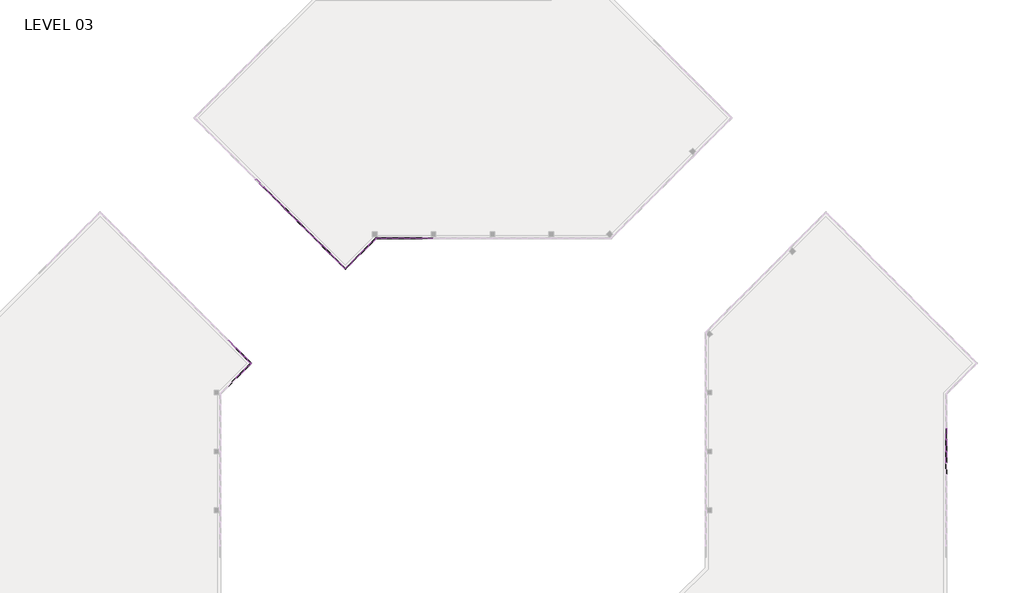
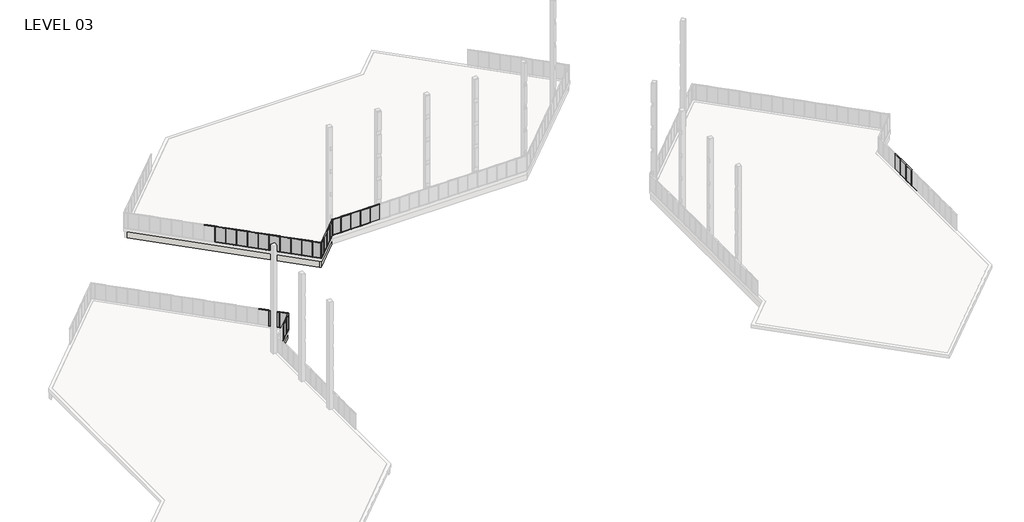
# One storey, part 12 of 18: 84 members, 26 plates, 3 walls.
"""IFC4 building model written with IfcOpenShell, lengths in millimetres."""

from ifc_helpers import new_model, si_unit, origin, place, context, project, spatial, faceted_brep, transform, mapped, element, save
from components import member_5247f267, member_e44af9ab, member_800970d4, member_45eb7f2e, member_910c08c9, member_dd9f6d43, plate_67294edd, plate_9c66726c, plate_88df3e37, plate_c3b8b83d, plate_129ab9d0, plate_6ecefdb5

model = new_model("IFC4")

# Units and contexts
model_context = context("Model", 3, world=origin())
ifc_project = project(units=[si_unit("LENGTHUNIT", "METRE", prefix="MILLI")], contexts=[model_context])

# Site, building, storey
site = spatial("IfcSite", under=ifc_project)
building = spatial("IfcBuilding", under=site)
storey = spatial("IfcBuildingStorey", under=building, Name="LEVEL 03", Elevation=8280.4)

# Members
placement = place(None, origin())
member_shape = member_5247f267(model_context)
element("IfcMember", 1, ObjectType="Rectangular Mullion : 2\" x 4.5\" rectangular", at=placement, inside=storey, context=model_context, shape_type="MappedRepresentation", body=[
    mapped(member_shape, transform((24466.55, 88955.8023049, 8280.4), x_axis=(0.0, 0.0, -1.0), y_axis=(0.0, 1.0, 0.0), z_axis=(1.0, 0.0, 0.0))),
])
element("IfcMember", 2, ObjectType="Rectangular Mullion : 2\" x 4.5\" rectangular", at=placement, inside=storey, context=model_context, shape_type="MappedRepresentation", body=[
    mapped(member_shape, transform((22942.55, 88955.8023049, 8280.4), x_axis=(0.0, 0.0, -1.0), y_axis=(0.0, 1.0, 0.0), z_axis=(1.0, 0.0, 0.0))),
])
element("IfcMember", 3, ObjectType="Rectangular Mullion : 2\" x 4.5\" rectangular", at=placement, inside=storey, context=model_context, shape_type="MappedRepresentation", body=[
    mapped(member_shape, transform((21418.55, 88955.8023049, 8280.4), x_axis=(0.0, 0.0, -1.0), y_axis=(0.0, 1.0, 0.0), z_axis=(1.0, 0.0, 0.0))),
])
element("IfcMember", 4, ObjectType="Rectangular Mullion : 2\" x 4.5\" rectangular", at=placement, inside=storey, context=model_context, shape_type="MappedRepresentation", body=[
    mapped(member_shape, transform((6200.5095063, 93365.536663, 8280.4), x_axis=(0.0, 0.0, -1.0), y_axis=(-0.7071067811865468, -0.7071067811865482, 0.0), z_axis=(-0.7071067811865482, 0.7071067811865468, 0.0))),
])
element("IfcMember", 5, ObjectType="Rectangular Mullion : 2\" x 4.5\" rectangular", at=placement, inside=storey, context=model_context, shape_type="MappedRepresentation", body=[
    mapped(member_shape, transform((7278.1402408, 92287.9059285, 8280.4), x_axis=(0.0, 0.0, -1.0), y_axis=(-0.7071067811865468, -0.7071067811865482, 0.0), z_axis=(-0.7071067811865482, 0.7071067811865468, 0.0))),
])
element("IfcMember", 6, ObjectType="Rectangular Mullion : 2\" x 4.5\" rectangular", at=placement, inside=storey, context=model_context, shape_type="MappedRepresentation", body=[
    mapped(member_shape, transform((8355.7709754, 91210.2751939, 8280.4), x_axis=(0.0, 0.0, -1.0), y_axis=(-0.7071067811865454, -0.7071067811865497, 0.0), z_axis=(-0.7071067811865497, 0.7071067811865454, 0.0))),
])
element("IfcMember", 7, ObjectType="Rectangular Mullion : 2\" x 4.5\" rectangular", at=placement, inside=storey, context=model_context, shape_type="MappedRepresentation", body=[
    mapped(member_shape, transform((15463.8924855, 85858.0386548, 8280.4), x_axis=(0.0, 0.0, -1.0), y_axis=(0.7071067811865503, -0.7071067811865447, 0.0), z_axis=(-0.7071067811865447, -0.7071067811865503, 0.0))),
])
element("IfcMember", 8, ObjectType="Rectangular Mullion : 2\" x 4.5\" rectangular", at=placement, inside=storey, context=model_context, shape_type="MappedRepresentation", body=[
    mapped(member_shape, transform((9433.4017099, 90132.6444594, 8280.4), x_axis=(0.0, 0.0, -1.0), y_axis=(-0.7071067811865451, -0.7071067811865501, 0.0), z_axis=(-0.7071067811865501, 0.7071067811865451, 0.0))),
])
element("IfcMember", 9, ObjectType="Rectangular Mullion : 2\" x 4.5\" rectangular", at=placement, inside=storey, context=model_context, shape_type="MappedRepresentation", body=[
    mapped(member_shape, transform((10511.0324444, 89055.0137249, 8280.4), x_axis=(0.0, 0.0, -1.0), y_axis=(-0.7071067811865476, -0.7071067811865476, 0.0), z_axis=(-0.7071067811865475, 0.7071067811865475, 0.0))),
])
element("IfcMember", 10, ObjectType="Rectangular Mullion : 2\" x 4.5\" rectangular", at=placement, inside=storey, context=model_context, shape_type="MappedRepresentation", body=[
    mapped(member_shape, transform((11588.663179, 87977.3829903, 8280.4), x_axis=(0.0, 0.0, -1.0), y_axis=(-0.7071067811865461, -0.707106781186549, 0.0), z_axis=(-0.707106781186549, 0.7071067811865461, 0.0))),
])
element("IfcMember", 11, ObjectType="Rectangular Mullion : 2\" x 4.5\" rectangular", at=placement, inside=storey, context=model_context, shape_type="MappedRepresentation", body=[
    mapped(member_shape, transform((12666.2939135, 86899.7522558, 8280.4), x_axis=(0.0, 0.0, -1.0), y_axis=(-0.7071067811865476, -0.7071067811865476, 0.0), z_axis=(-0.7071067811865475, 0.7071067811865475, 0.0))),
])
element("IfcMember", 12, ObjectType="Rectangular Mullion : 2\" x 4.5\" rectangular", at=placement, inside=storey, context=model_context, shape_type="MappedRepresentation", body=[
    mapped(member_shape, transform((16541.5232201, 86935.6693894, 8280.4), x_axis=(0.0, 0.0, -1.0), y_axis=(0.7071067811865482, -0.7071067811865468, 0.0), z_axis=(-0.7071067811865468, -0.7071067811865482, 0.0))),
])
element("IfcMember", 13, ObjectType="Rectangular Mullion : 2\" x 4.5\" rectangular", at=placement, inside=storey, context=model_context, shape_type="MappedRepresentation", body=[
    mapped(member_shape, transform((24517.35, 88955.8023049, 10871.2), x_axis=(0.0, 0.0, 1.0), y_axis=(0.0, 1.0, 0.0), z_axis=(-1.0, 0.0, 0.0))),
])
element("IfcMember", 14, ObjectType="Rectangular Mullion : 2\" x 4.5\" rectangular", at=placement, inside=storey, context=model_context, shape_type="MappedRepresentation", body=[
    mapped(member_shape, transform((22993.35, 88955.8023049, 10871.2), x_axis=(0.0, 0.0, 1.0), y_axis=(0.0, 1.0, 0.0), z_axis=(-1.0, 0.0, 0.0))),
])
element("IfcMember", 15, ObjectType="Rectangular Mullion : 2\" x 4.5\" rectangular", at=placement, inside=storey, context=model_context, shape_type="MappedRepresentation", body=[
    mapped(member_shape, transform((21469.35, 88955.8023049, 10871.2), x_axis=(0.0, 0.0, 1.0), y_axis=(0.0, 1.0, 0.0), z_axis=(-1.0, 0.0, 0.0))),
])
element("IfcMember", 16, ObjectType="Rectangular Mullion : 2\" x 4.5\" rectangular", at=placement, inside=storey, context=model_context, shape_type="MappedRepresentation", body=[
    mapped(member_shape, transform((19945.35, 88955.8023049, 10871.2), x_axis=(0.0, 0.0, 1.0), y_axis=(0.0, 1.0, 0.0), z_axis=(-1.0, 0.0, 0.0))),
])
element("IfcMember", 17, ObjectType="Rectangular Mullion : 2\" x 4.5\" rectangular", at=placement, inside=storey, context=model_context, shape_type="MappedRepresentation", body=[
    mapped(member_shape, transform((4009.6843581, 95556.3618112, 10871.2), x_axis=(0.0, 0.0, 1.0), y_axis=(-0.7071067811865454, -0.7071067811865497, 0.0), z_axis=(0.7071067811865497, -0.7071067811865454, 0.0))),
])
element("IfcMember", 18, ObjectType="Rectangular Mullion : 2\" x 4.5\" rectangular", at=placement, inside=storey, context=model_context, shape_type="MappedRepresentation", body=[
    mapped(member_shape, transform((7242.2192164, 92323.8269529, 10871.2), x_axis=(0.0, 0.0, 1.0), y_axis=(-0.7071067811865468, -0.7071067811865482, 0.0), z_axis=(0.7071067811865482, -0.7071067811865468, 0.0))),
])
element("IfcMember", 19, ObjectType="Rectangular Mullion : 2\" x 4.5\" rectangular", at=placement, inside=storey, context=model_context, shape_type="MappedRepresentation", body=[
    mapped(member_shape, transform((8319.8499509, 91246.1962184, 10871.2), x_axis=(0.0, 0.0, 1.0), y_axis=(-0.7071067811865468, -0.7071067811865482, 0.0), z_axis=(0.7071067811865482, -0.7071067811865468, 0.0))),
])
element("IfcMember", 20, ObjectType="Rectangular Mullion : 2\" x 4.5\" rectangular", at=placement, inside=storey, context=model_context, shape_type="MappedRepresentation", body=[
    mapped(member_shape, transform((17583.2329301, 87977.3790994, 10871.2), x_axis=(0.0, 0.0, 1.0), y_axis=(0.7071067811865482, -0.7071067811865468, 0.0), z_axis=(0.7071067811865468, 0.7071067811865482, 0.0))),
])
element("IfcMember", 21, ObjectType="Rectangular Mullion : 2\" x 4.5\" rectangular", at=placement, inside=storey, context=model_context, shape_type="MappedRepresentation", body=[
    mapped(member_shape, transform((9397.4806854, 90168.5654839, 10871.2), x_axis=(0.0, 0.0, 1.0), y_axis=(-0.7071067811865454, -0.7071067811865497, 0.0), z_axis=(0.7071067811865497, -0.7071067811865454, 0.0))),
])
element("IfcMember", 22, ObjectType="Rectangular Mullion : 2\" x 4.5\" rectangular", at=placement, inside=storey, context=model_context, shape_type="MappedRepresentation", body=[
    mapped(member_shape, transform((10475.1114199, 89090.9347494, 10871.2), x_axis=(0.0, 0.0, 1.0), y_axis=(-0.7071067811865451, -0.7071067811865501, 0.0), z_axis=(0.7071067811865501, -0.7071067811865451, 0.0))),
])
element("IfcMember", 23, ObjectType="Rectangular Mullion : 2\" x 4.5\" rectangular", at=placement, inside=storey, context=model_context, shape_type="MappedRepresentation", body=[
    mapped(member_shape, transform((11552.7421545, 88013.3040148, 10871.2), x_axis=(0.0, 0.0, 1.0), y_axis=(-0.7071067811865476, -0.7071067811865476, 0.0), z_axis=(0.7071067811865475, -0.7071067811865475, 0.0))),
])
element("IfcMember", 24, ObjectType="Rectangular Mullion : 2\" x 4.5\" rectangular", at=placement, inside=storey, context=model_context, shape_type="MappedRepresentation", body=[
    mapped(member_shape, transform((12630.372889, 86935.6732803, 10871.2), x_axis=(0.0, 0.0, 1.0), y_axis=(-0.7071067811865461, -0.707106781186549, 0.0), z_axis=(0.707106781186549, -0.7071067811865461, 0.0))),
])
element("IfcMember", 25, ObjectType="Rectangular Mullion : 2\" x 4.5\" rectangular", at=placement, inside=storey, context=model_context, shape_type="MappedRepresentation", body=[
    mapped(member_shape, transform((13708.0036235, 85858.0425458, 10871.2), x_axis=(0.0, 0.0, 1.0), y_axis=(-0.7071067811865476, -0.7071067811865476, 0.0), z_axis=(0.7071067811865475, -0.7071067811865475, 0.0))),
])
element("IfcMember", 26, ObjectType="Rectangular Mullion : 2\" x 4.5\" rectangular", at=placement, inside=storey, context=model_context, shape_type="MappedRepresentation", body=[
    mapped(member_shape, transform((16505.6021956, 86899.7483649, 10871.2), x_axis=(0.0, 0.0, 1.0), y_axis=(0.7071067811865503, -0.7071067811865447, 0.0), z_axis=(0.7071067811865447, 0.7071067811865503, 0.0))),
])
member_2_shape = member_e44af9ab(model_context)
element("IfcMember", 27, ObjectType="Rectangular Mullion : 2\" x 4.5\" rectangular", at=placement, inside=storey, context=model_context, shape_type="MappedRepresentation", body=[
    mapped(member_2_shape, transform((24491.95, 88955.8023049, 8280.4), x_axis=(-1.0, 0.0, 0.0), y_axis=(0.0, 1.0, 0.0), z_axis=(0.0, 0.0, -1.0))),
])
element("IfcMember", 28, ObjectType="Rectangular Mullion : 2\" x 4.5\" rectangular", at=placement, inside=storey, context=model_context, shape_type="MappedRepresentation", body=[
    mapped(member_2_shape, transform((22967.95, 88955.8023049, 8280.4), x_axis=(-1.0, 0.0, 0.0), y_axis=(0.0, 1.0, 0.0), z_axis=(0.0, 0.0, -1.0))),
])
element("IfcMember", 29, ObjectType="Rectangular Mullion : 2\" x 4.5\" rectangular", at=placement, inside=storey, context=model_context, shape_type="MappedRepresentation", body=[
    mapped(member_2_shape, transform((21443.95, 88955.8023049, 8280.4), x_axis=(-1.0, 0.0, 0.0), y_axis=(0.0, 1.0, 0.0), z_axis=(0.0, 0.0, -1.0))),
])
element("IfcMember", 30, ObjectType="Rectangular Mullion : 2\" x 4.5\" rectangular", at=placement, inside=storey, context=model_context, shape_type="MappedRepresentation", body=[
    mapped(member_2_shape, transform((19919.95, 88955.8023049, 8280.4), x_axis=(-1.0, 0.0, 0.0), y_axis=(0.0, 1.0, 0.0), z_axis=(0.0, 0.0, -1.0))),
])
element("IfcMember", 31, ObjectType="Rectangular Mullion : 2\" x 4.5\" rectangular", at=placement, inside=storey, context=model_context, shape_type="MappedRepresentation", body=[
    mapped(member_2_shape, transform((4027.6448703, 95538.401299, 8280.4), x_axis=(0.7071067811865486, -0.7071067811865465, 0.0), y_axis=(-0.7071067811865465, -0.7071067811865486, 0.0), z_axis=(0.0, 0.0, -1.0))),
])
element("IfcMember", 32, ObjectType="Rectangular Mullion : 2\" x 4.5\" rectangular", at=placement, inside=storey, context=model_context, shape_type="MappedRepresentation", body=[
    mapped(member_2_shape, transform((6182.5489941, 93383.4971752, 8280.4), x_axis=(0.7071067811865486, -0.7071067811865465, 0.0), y_axis=(-0.7071067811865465, -0.7071067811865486, 0.0), z_axis=(0.0, 0.0, -1.0))),
])
element("IfcMember", 33, ObjectType="Rectangular Mullion : 2\" x 4.5\" rectangular", at=placement, inside=storey, context=model_context, shape_type="MappedRepresentation", body=[
    mapped(member_2_shape, transform((7260.1797286, 92305.8664407, 8280.4), x_axis=(0.7071067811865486, -0.7071067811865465, 0.0), y_axis=(-0.7071067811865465, -0.7071067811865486, 0.0), z_axis=(0.0, 0.0, -1.0))),
])
element("IfcMember", 34, ObjectType="Rectangular Mullion : 2\" x 4.5\" rectangular", at=placement, inside=storey, context=model_context, shape_type="MappedRepresentation", body=[
    mapped(member_2_shape, transform((8337.8104631, 91228.2357062, 8280.4), x_axis=(0.7071067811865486, -0.7071067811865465, 0.0), y_axis=(-0.7071067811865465, -0.7071067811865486, 0.0), z_axis=(0.0, 0.0, -1.0))),
])
element("IfcMember", 35, ObjectType="Rectangular Mullion : 2\" x 4.5\" rectangular", at=placement, inside=storey, context=model_context, shape_type="MappedRepresentation", body=[
    mapped(member_2_shape, transform((15445.9319733, 85840.0781426, 8280.4), x_axis=(0.7071067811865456, 0.7071067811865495, 0.0), y_axis=(0.7071067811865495, -0.7071067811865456, 0.0), z_axis=(0.0, 0.0, -1.0))),
])
element("IfcMember", 36, ObjectType="Rectangular Mullion : 2\" x 4.5\" rectangular", at=placement, inside=storey, context=model_context, shape_type="MappedRepresentation", body=[
    mapped(member_2_shape, transform((17601.1934424, 87995.3396117, 8280.4), x_axis=(0.7071067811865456, 0.7071067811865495, 0.0), y_axis=(0.7071067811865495, -0.7071067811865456, 0.0), z_axis=(0.0, 0.0, -1.0))),
])
element("IfcMember", 37, ObjectType="Rectangular Mullion : 2\" x 4.5\" rectangular", at=placement, inside=storey, context=model_context, shape_type="MappedRepresentation", body=[
    mapped(member_2_shape, transform((5105.0969322, 94460.9492371, 8280.4), x_axis=(0.7071067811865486, -0.7071067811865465, 0.0), y_axis=(-0.7071067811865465, -0.7071067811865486, 0.0), z_axis=(0.0, 0.0, -1.0))),
])
element("IfcMember", 38, ObjectType="Rectangular Mullion : 2\" x 4.5\" rectangular", at=placement, inside=storey, context=model_context, shape_type="MappedRepresentation", body=[
    mapped(member_2_shape, transform((9415.4411977, 90150.6049716, 8280.4), x_axis=(0.7071067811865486, -0.7071067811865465, 0.0), y_axis=(-0.7071067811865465, -0.7071067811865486, 0.0), z_axis=(0.0, 0.0, -1.0))),
])
element("IfcMember", 39, ObjectType="Rectangular Mullion : 2\" x 4.5\" rectangular", at=placement, inside=storey, context=model_context, shape_type="MappedRepresentation", body=[
    mapped(member_2_shape, transform((10493.0719322, 89072.9742371, 8280.4), x_axis=(0.7071067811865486, -0.7071067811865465, 0.0), y_axis=(-0.7071067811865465, -0.7071067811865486, 0.0), z_axis=(0.0, 0.0, -1.0))),
])
element("IfcMember", 40, ObjectType="Rectangular Mullion : 2\" x 4.5\" rectangular", at=placement, inside=storey, context=model_context, shape_type="MappedRepresentation", body=[
    mapped(member_2_shape, transform((11570.7026667, 87995.3435026, 8280.4), x_axis=(0.7071067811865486, -0.7071067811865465, 0.0), y_axis=(-0.7071067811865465, -0.7071067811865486, 0.0), z_axis=(0.0, 0.0, -1.0))),
])
element("IfcMember", 41, ObjectType="Rectangular Mullion : 2\" x 4.5\" rectangular", at=placement, inside=storey, context=model_context, shape_type="MappedRepresentation", body=[
    mapped(member_2_shape, transform((12648.3334012, 86917.7127681, 8280.4), x_axis=(0.7071067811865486, -0.7071067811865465, 0.0), y_axis=(-0.7071067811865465, -0.7071067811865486, 0.0), z_axis=(0.0, 0.0, -1.0))),
])
element("IfcMember", 42, ObjectType="Rectangular Mullion : 2\" x 4.5\" rectangular", at=placement, inside=storey, context=model_context, shape_type="MappedRepresentation", body=[
    mapped(member_2_shape, transform((13725.9641358, 85840.0820335, 8280.4), x_axis=(0.7071067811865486, -0.7071067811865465, 0.0), y_axis=(-0.7071067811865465, -0.7071067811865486, 0.0), z_axis=(0.0, 0.0, -1.0))),
])
element("IfcMember", 43, ObjectType="Rectangular Mullion : 2\" x 4.5\" rectangular", at=placement, inside=storey, context=model_context, shape_type="MappedRepresentation", body=[
    mapped(member_2_shape, transform((16523.5627078, 86917.7088771, 8280.4), x_axis=(0.7071067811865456, 0.7071067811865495, 0.0), y_axis=(0.7071067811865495, -0.7071067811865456, 0.0), z_axis=(0.0, 0.0, -1.0))),
])
member_3_shape = member_800970d4(model_context)
element("IfcMember", 44, ObjectType="Rectangular Mullion : 2\" x 4.5\" rectangular", at=placement, inside=storey, context=model_context, shape_type="MappedRepresentation", body=[
    mapped(member_3_shape, transform((18561.6561356, 88955.8023049, 8280.4), x_axis=(-1.0, 0.0, 0.0), y_axis=(0.0, 1.0, 0.0), z_axis=(0.0, 0.0, -1.0))),
])
element("IfcMember", 45, ObjectType="Rectangular Mullion : 2\" x 4.5\" rectangular", at=placement, inside=storey, context=model_context, shape_type="MappedRepresentation", body=[
    mapped(member_3_shape, transform((14585.95, 84980.0961693, 8280.4), x_axis=(0.7071067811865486, -0.7071067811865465, 0.0), y_axis=(-0.7071067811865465, -0.7071067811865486, 0.0), z_axis=(0.0, 0.0, -1.0))),
])
element("IfcMember", 46, ObjectType="Rectangular Mullion : 2\" x 4.5\" rectangular", at=placement, inside=storey, context=model_context, shape_type="MappedRepresentation", body=[
    mapped(member_3_shape, transform((18561.6561356, 88955.8023049, 8280.4), x_axis=(0.7071067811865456, 0.7071067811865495, 0.0), y_axis=(0.7071067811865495, -0.7071067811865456, 0.0), z_axis=(0.0, 0.0, -1.0))),
])
element("IfcMember", 47, ObjectType="Rectangular Mullion : 2\" x 4.5\" rectangular", at=placement, inside=storey, context=model_context, shape_type="MappedRepresentation", body=[
    mapped(member_3_shape, transform((14585.95, 84980.0961693, 10871.2), x_axis=(-0.7071067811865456, -0.7071067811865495, 0.0), y_axis=(0.7071067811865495, -0.7071067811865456, 0.0), z_axis=(0.0, 0.0, 1.0))),
])
member_4_shape = member_45eb7f2e(model_context)
element("IfcMember", 48, ObjectType="Rectangular Mullion : 2\" x 4.5\" rectangular", at=placement, inside=storey, context=model_context, shape_type="MappedRepresentation", body=[
    mapped(member_4_shape, transform((18612.4561356, 88955.8023049, 10871.2), x_axis=(0.0, 0.0, 1.0), y_axis=(0.0, 1.0, 0.0), z_axis=(-1.0, 0.0, 0.0))),
])
element("IfcMember", 49, ObjectType="Rectangular Mullion : 2\" x 4.5\" rectangular", at=placement, inside=storey, context=model_context, shape_type="MappedRepresentation", body=[
    mapped(member_4_shape, transform((18525.7351111, 88919.8812804, 10871.2), x_axis=(0.0, 0.0, 1.0), y_axis=(0.7071067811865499, -0.7071067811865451, 0.0), z_axis=(0.7071067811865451, 0.7071067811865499, 0.0))),
])
element("IfcMember", 50, ObjectType="Rectangular Mullion : 2\" x 4.5\" rectangular", at=placement, inside=storey, context=model_context, shape_type="MappedRepresentation", body=[
    mapped(member_4_shape, transform((19894.55, 88955.8023049, 8280.4), x_axis=(0.0, 0.0, -1.0), y_axis=(0.0, 1.0, 0.0), z_axis=(1.0, 0.0, 0.0))),
])
element("IfcMember", 51, ObjectType="Rectangular Mullion : 2\" x 4.5\" rectangular", at=placement, inside=storey, context=model_context, shape_type="MappedRepresentation", body=[
    mapped(member_4_shape, transform((17619.1539546, 88013.3001239, 8280.4), x_axis=(0.0, 0.0, -1.0), y_axis=(0.7071067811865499, -0.7071067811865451, 0.0), z_axis=(-0.7071067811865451, -0.7071067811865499, 0.0))),
])
member_5_shape = member_910c08c9(model_context)
element("IfcMember", 52, ObjectType="Rectangular Mullion : 2\" x 4.5\" rectangular", at=placement, inside=storey, context=model_context, shape_type="MappedRepresentation", body=[
    mapped(member_5_shape, transform((6164.5884818, 93401.4576875, 10871.2), x_axis=(0.0, 0.0, 1.0), y_axis=(-0.7071067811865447, -0.7071067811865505, 0.0), z_axis=(0.7071067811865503, -0.7071067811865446, 0.0))),
])
element("IfcMember", 53, ObjectType="Rectangular Mullion : 2\" x 4.5\" rectangular", at=placement, inside=storey, context=model_context, shape_type="MappedRepresentation", body=[
    mapped(member_5_shape, transform((5087.1364199, 94478.9097494, 10871.2), x_axis=(0.0, 0.0, 1.0), y_axis=(-0.7071067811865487, -0.7071067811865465, 0.0), z_axis=(0.7071067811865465, -0.7071067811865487, 0.0))),
])
element("IfcMember", 54, ObjectType="Rectangular Mullion : 2\" x 4.5\" rectangular", at=placement, inside=storey, context=model_context, shape_type="MappedRepresentation", body=[
    mapped(member_5_shape, transform((4045.6053825, 95520.4407868, 8280.4), x_axis=(0.0, 0.0, -1.0), y_axis=(-0.7071067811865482, -0.7071067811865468, 0.0), z_axis=(-0.7071067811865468, 0.7071067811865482, 0.0))),
])
element("IfcMember", 55, ObjectType="Rectangular Mullion : 2\" x 4.5\" rectangular", at=placement, inside=storey, context=model_context, shape_type="MappedRepresentation", body=[
    mapped(member_5_shape, transform((5123.0574444, 94442.9887249, 8280.4), x_axis=(0.0, 0.0, -1.0), y_axis=(-0.7071067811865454, -0.7071067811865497, 0.0), z_axis=(-0.7071067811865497, 0.7071067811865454, 0.0))),
])
member_6_shape = member_dd9f6d43(model_context)
element("IfcMember", 56, ObjectType="Rectangular Mullion : 2\" x 4.5\" rectangular", at=placement, inside=storey, context=model_context, shape_type="MappedRepresentation", body=[
    mapped(member_6_shape, transform((14550.0289755, 85016.0171938, 10871.2), x_axis=(0.0, 0.0, 1.0), y_axis=(-0.7071067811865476, -0.7071067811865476, 0.0), z_axis=(0.7071067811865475, -0.7071067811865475, 0.0))),
])
element("IfcMember", 57, ObjectType="Rectangular Mullion : 2\" x 4.5\" rectangular", at=placement, inside=storey, context=model_context, shape_type="MappedRepresentation", body=[
    mapped(member_6_shape, transform((15427.9714611, 85822.1176304, 10871.2), x_axis=(0.0, 0.0, 1.0), y_axis=(0.7071067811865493, -0.7071067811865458, 0.0), z_axis=(0.7071067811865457, 0.7071067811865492, 0.0))),
])
element("IfcMember", 58, ObjectType="Rectangular Mullion : 2\" x 4.5\" rectangular", at=placement, inside=storey, context=model_context, shape_type="MappedRepresentation", body=[
    mapped(member_6_shape, transform((14621.8710245, 85016.0171938, 8280.4), x_axis=(0.0, 0.0, -1.0), y_axis=(0.7071067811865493, -0.7071067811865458, 0.0), z_axis=(-0.7071067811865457, -0.7071067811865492, 0.0))),
])
element("IfcMember", 59, ObjectType="Rectangular Mullion : 2\" x 4.5\" rectangular", at=placement, inside=storey, context=model_context, shape_type="MappedRepresentation", body=[
    mapped(member_6_shape, transform((13743.924648, 85822.1215213, 8280.4), x_axis=(0.0, 0.0, -1.0), y_axis=(-0.7071067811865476, -0.7071067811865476, 0.0), z_axis=(-0.7071067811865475, 0.7071067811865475, 0.0))),
])
element("IfcMember", 60, ObjectType="Rectangular Mullion : 2\" x 4.5\" rectangular", at=placement, inside=storey, context=model_context, shape_type="MappedRepresentation", body=[
    mapped(member_shape, transform((92435.9347164, 62877.3675885, 10871.2), x_axis=(0.0, 0.0, 1.0), y_axis=(-1.0, 0.0, 0.0), z_axis=(0.0, -1.0, 0.0))),
])
element("IfcMember", 61, ObjectType="Rectangular Mullion : 2\" x 4.5\" rectangular", at=placement, inside=storey, context=model_context, shape_type="MappedRepresentation", body=[
    mapped(member_shape, transform((92435.9347164, 59829.3675885, 10871.2), x_axis=(0.0, 0.0, 1.0), y_axis=(-1.0, 0.0, 0.0), z_axis=(0.0, -1.0, 0.0))),
])
element("IfcMember", 62, ObjectType="Rectangular Mullion : 2\" x 4.5\" rectangular", at=placement, inside=storey, context=model_context, shape_type="MappedRepresentation", body=[
    mapped(member_shape, transform((92435.9347164, 61353.3675885, 10871.2), x_axis=(0.0, 0.0, 1.0), y_axis=(-1.0, 0.0, 0.0), z_axis=(0.0, -1.0, 0.0))),
])
element("IfcMember", 63, ObjectType="Rectangular Mullion : 2\" x 4.5\" rectangular", at=placement, inside=storey, context=model_context, shape_type="MappedRepresentation", body=[
    mapped(member_shape, transform((408.2443082, 74713.5446995, 10871.2), x_axis=(0.0, 0.0, 1.0), y_axis=(-0.7071067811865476, -0.7071067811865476, 0.0), z_axis=(0.7071067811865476, -0.7071067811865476, 0.0))),
])
element("IfcMember", 64, ObjectType="Rectangular Mullion : 2\" x 4.5\" rectangular", at=placement, inside=storey, context=model_context, shape_type="MappedRepresentation", body=[
    mapped(member_shape, transform((1485.8750428, 73635.913965, 10871.2), x_axis=(0.0, 0.0, 1.0), y_axis=(-0.7071067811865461, -0.707106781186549, 0.0), z_axis=(0.707106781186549, -0.7071067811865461, 0.0))),
])
element("IfcMember", 65, ObjectType="Rectangular Mullion : 2\" x 4.5\" rectangular", at=placement, inside=storey, context=model_context, shape_type="MappedRepresentation", body=[
    mapped(member_shape, transform((444.1692236, 70838.3153929, 10871.2), x_axis=(0.0, 0.0, 1.0), y_axis=(-0.7071067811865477, 0.7071067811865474, 0.0), z_axis=(-0.7071067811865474, -0.7071067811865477, 0.0))),
])
element("IfcMember", 66, ObjectType="Rectangular Mullion : 2\" x 4.5\" rectangular", at=placement, inside=storey, context=model_context, shape_type="MappedRepresentation", body=[
    mapped(member_shape, transform((92435.9347164, 62826.5675885, 8280.4), x_axis=(0.0, 0.0, -1.0), y_axis=(-1.0, 0.0, 0.0), z_axis=(0.0, 1.0, 0.0))),
])
element("IfcMember", 67, ObjectType="Rectangular Mullion : 2\" x 4.5\" rectangular", at=placement, inside=storey, context=model_context, shape_type="MappedRepresentation", body=[
    mapped(member_shape, transform((92435.9347164, 59778.5675885, 8280.4), x_axis=(0.0, 0.0, -1.0), y_axis=(-1.0, 0.0, 0.0), z_axis=(0.0, 1.0, 0.0))),
])
element("IfcMember", 68, ObjectType="Rectangular Mullion : 2\" x 4.5\" rectangular", at=placement, inside=storey, context=model_context, shape_type="MappedRepresentation", body=[
    mapped(member_shape, transform((92435.9347164, 61302.5675885, 8280.4), x_axis=(0.0, 0.0, -1.0), y_axis=(-1.0, 0.0, 0.0), z_axis=(0.0, 1.0, 0.0))),
])
element("IfcMember", 69, ObjectType="Rectangular Mullion : 2\" x 4.5\" rectangular", at=placement, inside=storey, context=model_context, shape_type="MappedRepresentation", body=[
    mapped(member_shape, transform((1485.8789337, 71880.025103, 8280.4), x_axis=(0.0, 0.0, -1.0), y_axis=(-0.7071067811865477, 0.7071067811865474, 0.0), z_axis=(0.7071067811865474, 0.7071067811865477, 0.0))),
])
element("IfcMember", 70, ObjectType="Rectangular Mullion : 2\" x 4.5\" rectangular", at=placement, inside=storey, context=model_context, shape_type="MappedRepresentation", body=[
    mapped(member_shape, transform((444.1653327, 74677.623675, 8280.4), x_axis=(0.0, 0.0, -1.0), y_axis=(-0.7071067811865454, -0.7071067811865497, 0.0), z_axis=(-0.7071067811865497, 0.7071067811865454, 0.0))),
])
element("IfcMember", 71, ObjectType="Rectangular Mullion : 2\" x 4.5\" rectangular", at=placement, inside=storey, context=model_context, shape_type="MappedRepresentation", body=[
    mapped(member_shape, transform((408.2481992, 70802.3943684, 8280.4), x_axis=(0.0, 0.0, -1.0), y_axis=(-0.7071067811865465, 0.7071067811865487, 0.0), z_axis=(0.7071067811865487, 0.7071067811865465, 0.0))),
])
element("IfcMember", 72, ObjectType="Rectangular Mullion : 2\" x 4.5\" rectangular", at=placement, inside=storey, context=model_context, shape_type="MappedRepresentation", body=[
    mapped(member_2_shape, transform((92435.9347164, 62851.9675885, 8280.4), x_axis=(0.0, -1.0, 0.0), y_axis=(-1.0, 0.0, 0.0), z_axis=(0.0, 0.0, -1.0))),
])
element("IfcMember", 73, ObjectType="Rectangular Mullion : 2\" x 4.5\" rectangular", at=placement, inside=storey, context=model_context, shape_type="MappedRepresentation", body=[
    mapped(member_2_shape, transform((92435.9347164, 59803.9675885, 8280.4), x_axis=(0.0, -1.0, 0.0), y_axis=(-1.0, 0.0, 0.0), z_axis=(0.0, 0.0, -1.0))),
])
element("IfcMember", 74, ObjectType="Rectangular Mullion : 2\" x 4.5\" rectangular", at=placement, inside=storey, context=model_context, shape_type="MappedRepresentation", body=[
    mapped(member_2_shape, transform((92435.9347164, 61327.9675885, 8280.4), x_axis=(0.0, -1.0, 0.0), y_axis=(-1.0, 0.0, 0.0), z_axis=(0.0, 0.0, -1.0))),
])
element("IfcMember", 75, ObjectType="Rectangular Mullion : 2\" x 4.5\" rectangular", at=placement, inside=storey, context=model_context, shape_type="MappedRepresentation", body=[
    mapped(member_2_shape, transform((1503.8394459, 71897.9856152, 8280.4), x_axis=(-0.707106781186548, -0.7071067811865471, 0.0), y_axis=(-0.7071067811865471, 0.707106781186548, 0.0), z_axis=(0.0, 0.0, -1.0))),
])
element("IfcMember", 76, ObjectType="Rectangular Mullion : 2\" x 4.5\" rectangular", at=placement, inside=storey, context=model_context, shape_type="MappedRepresentation", body=[
    mapped(member_2_shape, transform((426.2048205, 74695.5841873, 8280.4), x_axis=(0.707106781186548, -0.7071067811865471, 0.0), y_axis=(-0.7071067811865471, -0.707106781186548, 0.0), z_axis=(0.0, 0.0, -1.0))),
])
element("IfcMember", 77, ObjectType="Rectangular Mullion : 2\" x 4.5\" rectangular", at=placement, inside=storey, context=model_context, shape_type="MappedRepresentation", body=[
    mapped(member_2_shape, transform((1503.835555, 73617.9534527, 8280.4), x_axis=(0.707106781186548, -0.7071067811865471, 0.0), y_axis=(-0.7071067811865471, -0.707106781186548, 0.0), z_axis=(0.0, 0.0, -1.0))),
])
element("IfcMember", 78, ObjectType="Rectangular Mullion : 2\" x 4.5\" rectangular", at=placement, inside=storey, context=model_context, shape_type="MappedRepresentation", body=[
    mapped(member_2_shape, transform((426.2087114, 70820.3548807, 8280.4), x_axis=(-0.707106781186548, -0.7071067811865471, 0.0), y_axis=(-0.7071067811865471, 0.707106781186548, 0.0), z_axis=(0.0, 0.0, -1.0))),
])
element("IfcMember", 79, ObjectType="Rectangular Mullion : 2\" x 4.5\" rectangular", at=placement, inside=storey, context=model_context, shape_type="MappedRepresentation", body=[
    mapped(member_3_shape, transform((2363.8214192, 72757.9675885, 8280.4), x_axis=(0.707106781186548, -0.7071067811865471, 0.0), y_axis=(-0.7071067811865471, -0.707106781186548, 0.0), z_axis=(0.0, 0.0, -1.0))),
])
element("IfcMember", 80, ObjectType="Rectangular Mullion : 2\" x 4.5\" rectangular", at=placement, inside=storey, context=model_context, shape_type="MappedRepresentation", body=[
    mapped(member_3_shape, transform((2363.8214192, 72757.9675885, 10871.2), x_axis=(0.707106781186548, 0.7071067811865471, 0.0), y_axis=(-0.7071067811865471, 0.707106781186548, 0.0), z_axis=(0.0, 0.0, 1.0))),
])
element("IfcMember", 81, ObjectType="Rectangular Mullion : 2\" x 4.5\" rectangular", at=placement, inside=storey, context=model_context, shape_type="MappedRepresentation", body=[
    mapped(member_6_shape, transform((2327.9003947, 72793.888613, 10871.2), x_axis=(0.0, 0.0, 1.0), y_axis=(-0.7071067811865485, -0.7071067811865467, 0.0), z_axis=(0.7071067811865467, -0.7071067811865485, 0.0))),
])
element("IfcMember", 82, ObjectType="Rectangular Mullion : 2\" x 4.5\" rectangular", at=placement, inside=storey, context=model_context, shape_type="MappedRepresentation", body=[
    mapped(member_6_shape, transform((1521.7999582, 71915.9461275, 10871.2), x_axis=(0.0, 0.0, 1.0), y_axis=(-0.7071067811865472, 0.7071067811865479, 0.0), z_axis=(-0.7071067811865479, -0.7071067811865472, 0.0))),
])
element("IfcMember", 83, ObjectType="Rectangular Mullion : 2\" x 4.5\" rectangular", at=placement, inside=storey, context=model_context, shape_type="MappedRepresentation", body=[
    mapped(member_6_shape, transform((2327.9003947, 72722.046564, 8280.4), x_axis=(0.0, 0.0, -1.0), y_axis=(-0.7071067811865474, 0.7071067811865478, 0.0), z_axis=(0.7071067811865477, 0.7071067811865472, 0.0))),
])
element("IfcMember", 84, ObjectType="Rectangular Mullion : 2\" x 4.5\" rectangular", at=placement, inside=storey, context=model_context, shape_type="MappedRepresentation", body=[
    mapped(member_6_shape, transform((1521.7960672, 73599.9929405, 8280.4), x_axis=(0.0, 0.0, -1.0), y_axis=(-0.7071067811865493, -0.7071067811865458, 0.0), z_axis=(-0.7071067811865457, 0.7071067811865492, 0.0))),
])

# Plates
plate_shape = plate_67294edd(model_context)
element("IfcPlate", 85, ObjectType="System Panel : 1/4\" Glass", at=placement, inside=storey, context=model_context, shape_type="MappedRepresentation", body=[
    mapped(plate_shape, transform((23729.95, 88955.8023049, 8331.2), x_axis=(-1.0, 0.0, 0.0), y_axis=(0.0, -1.0, 0.0), z_axis=(0.0, 0.0, 1.0))),
])
element("IfcPlate", 86, ObjectType="System Panel : 1/4\" Glass", at=placement, inside=storey, context=model_context, shape_type="MappedRepresentation", body=[
    mapped(plate_shape, transform((22205.95, 88955.8023049, 8331.2), x_axis=(-1.0, 0.0, 0.0), y_axis=(0.0, -1.0, 0.0), z_axis=(0.0, 0.0, 1.0))),
])
element("IfcPlate", 87, ObjectType="System Panel : 1/4\" Glass", at=placement, inside=storey, context=model_context, shape_type="MappedRepresentation", body=[
    mapped(plate_shape, transform((20681.95, 88955.8023049, 8331.2), x_axis=(-1.0, 0.0, 0.0), y_axis=(0.0, -1.0, 0.0), z_axis=(0.0, 0.0, 1.0))),
])
element("IfcPlate", 88, ObjectType="System Panel : 1/4\" Glass", at=placement, inside=storey, context=model_context, shape_type="MappedRepresentation", body=[
    mapped(plate_shape, transform((6721.3643613, 92844.681808, 8331.2), x_axis=(0.7071067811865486, -0.7071067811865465, 0.0), y_axis=(0.7071067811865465, 0.7071067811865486, 0.0), z_axis=(0.0, 0.0, 1.0))),
])
element("IfcPlate", 89, ObjectType="System Panel : 1/4\" Glass", at=placement, inside=storey, context=model_context, shape_type="MappedRepresentation", body=[
    mapped(plate_shape, transform((7798.9950959, 91767.0510734, 8331.2), x_axis=(0.7071067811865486, -0.7071067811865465, 0.0), y_axis=(0.7071067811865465, 0.7071067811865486, 0.0), z_axis=(0.0, 0.0, 1.0))),
])
element("IfcPlate", 90, ObjectType="System Panel : 1/4\" Glass", at=placement, inside=storey, context=model_context, shape_type="MappedRepresentation", body=[
    mapped(plate_shape, transform((8876.6258304, 90689.4203389, 8331.2), x_axis=(0.7071067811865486, -0.7071067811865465, 0.0), y_axis=(0.7071067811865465, 0.7071067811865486, 0.0), z_axis=(0.0, 0.0, 1.0))),
])
element("IfcPlate", 91, ObjectType="System Panel : 1/4\" Glass", at=placement, inside=storey, context=model_context, shape_type="MappedRepresentation", body=[
    mapped(plate_shape, transform((15984.7473406, 86378.8935099, 8331.2), x_axis=(0.7071067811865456, 0.7071067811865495, 0.0), y_axis=(-0.7071067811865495, 0.7071067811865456, 0.0), z_axis=(0.0, 0.0, 1.0))),
])
element("IfcPlate", 92, ObjectType="System Panel : 1/4\" Glass", at=placement, inside=storey, context=model_context, shape_type="MappedRepresentation", body=[
    mapped(plate_shape, transform((9954.2565649, 89611.7896044, 8331.2), x_axis=(0.7071067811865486, -0.7071067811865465, 0.0), y_axis=(0.7071067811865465, 0.7071067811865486, 0.0), z_axis=(0.0, 0.0, 1.0))),
])
element("IfcPlate", 93, ObjectType="System Panel : 1/4\" Glass", at=placement, inside=storey, context=model_context, shape_type="MappedRepresentation", body=[
    mapped(plate_shape, transform((11031.8872995, 88534.1588698, 8331.2), x_axis=(0.7071067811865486, -0.7071067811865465, 0.0), y_axis=(0.7071067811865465, 0.7071067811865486, 0.0), z_axis=(0.0, 0.0, 1.0))),
])
element("IfcPlate", 94, ObjectType="System Panel : 1/4\" Glass", at=placement, inside=storey, context=model_context, shape_type="MappedRepresentation", body=[
    mapped(plate_shape, transform((12109.518034, 87456.5281353, 8331.2), x_axis=(0.7071067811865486, -0.7071067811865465, 0.0), y_axis=(0.7071067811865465, 0.7071067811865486, 0.0), z_axis=(0.0, 0.0, 1.0))),
])
element("IfcPlate", 95, ObjectType="System Panel : 1/4\" Glass", at=placement, inside=storey, context=model_context, shape_type="MappedRepresentation", body=[
    mapped(plate_shape, transform((13187.1487685, 86378.8974008, 8331.2), x_axis=(0.7071067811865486, -0.7071067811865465, 0.0), y_axis=(0.7071067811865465, 0.7071067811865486, 0.0), z_axis=(0.0, 0.0, 1.0))),
])
element("IfcPlate", 96, ObjectType="System Panel : 1/4\" Glass", at=placement, inside=storey, context=model_context, shape_type="MappedRepresentation", body=[
    mapped(plate_shape, transform((17062.3780751, 87456.5242444, 8331.2), x_axis=(0.7071067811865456, 0.7071067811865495, 0.0), y_axis=(-0.7071067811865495, 0.7071067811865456, 0.0), z_axis=(0.0, 0.0, 1.0))),
])
element("IfcPlate", 97, ObjectType="System Panel : 1/4\" Glass", at=placement, inside=storey, context=model_context, shape_type="MappedRepresentation", body=[
    mapped(plate_shape, transform((25253.95, 88955.8023049, 8331.2), x_axis=(-1.0, 0.0, 0.0), y_axis=(0.0, -1.0, 0.0), z_axis=(0.0, 0.0, 1.0))),
])
plate_2_shape = plate_9c66726c(model_context)
element("IfcPlate", 98, ObjectType="System Panel : 1/4\" Glass", at=placement, inside=storey, context=model_context, shape_type="MappedRepresentation", body=[
    mapped(plate_2_shape, transform((19253.5030678, 88955.8023049, 8331.2), x_axis=(-1.0, 0.0, 0.0), y_axis=(0.0, -1.0, 0.0), z_axis=(0.0, 0.0, 1.0))),
])
plate_3_shape = plate_88df3e37(model_context)
element("IfcPlate", 99, ObjectType="System Panel : 1/4\" Glass", at=placement, inside=storey, context=model_context, shape_type="MappedRepresentation", body=[
    mapped(plate_3_shape, transform((4566.3709012, 94999.6752681, 8331.2), x_axis=(0.7071067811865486, -0.7071067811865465, 0.0), y_axis=(0.7071067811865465, 0.7071067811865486, 0.0), z_axis=(0.0, 0.0, 1.0))),
])
element("IfcPlate", 100, ObjectType="System Panel : 1/4\" Glass", at=placement, inside=storey, context=model_context, shape_type="MappedRepresentation", body=[
    mapped(plate_3_shape, transform((5643.8229631, 93922.2232062, 8331.2), x_axis=(0.7071067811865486, -0.7071067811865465, 0.0), y_axis=(0.7071067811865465, 0.7071067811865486, 0.0), z_axis=(0.0, 0.0, 1.0))),
])
plate_4_shape = plate_c3b8b83d(model_context)
element("IfcPlate", 101, ObjectType="System Panel : 1/4\" Glass", at=placement, inside=storey, context=model_context, shape_type="MappedRepresentation", body=[
    mapped(plate_4_shape, transform((14146.9768118, 85419.0693575, 8331.2), x_axis=(0.7071067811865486, -0.7071067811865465, 0.0), y_axis=(0.7071067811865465, 0.7071067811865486, 0.0), z_axis=(0.0, 0.0, 1.0))),
])
plate_5_shape = plate_129ab9d0(model_context)
element("IfcPlate", 102, ObjectType="System Panel : 1/4\" Glass", at=placement, inside=storey, context=model_context, shape_type="MappedRepresentation", body=[
    mapped(plate_5_shape, transform((18072.4445329, 88466.5907022, 8331.2), x_axis=(0.7071067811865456, 0.7071067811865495, 0.0), y_axis=(-0.7071067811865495, 0.7071067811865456, 0.0), z_axis=(0.0, 0.0, 1.0))),
])
plate_6_shape = plate_6ecefdb5(model_context)
element("IfcPlate", 103, ObjectType="System Panel : 1/4\" Glass", at=placement, inside=storey, context=model_context, shape_type="MappedRepresentation", body=[
    mapped(plate_6_shape, transform((15024.9212428, 85419.0674121, 8331.2), x_axis=(0.7071067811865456, 0.7071067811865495, 0.0), y_axis=(-0.7071067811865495, 0.7071067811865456, 0.0), z_axis=(0.0, 0.0, 1.0))),
])
element("IfcPlate", 104, ObjectType="System Panel : 1/4\" Glass", at=placement, inside=storey, context=model_context, shape_type="MappedRepresentation", body=[
    mapped(plate_shape, transform((92435.9347164, 63613.9675885, 8331.2), x_axis=(0.0, -1.0, 0.0), y_axis=(1.0, 0.0, 0.0), z_axis=(0.0, 0.0, 1.0))),
])
element("IfcPlate", 105, ObjectType="System Panel : 1/4\" Glass", at=placement, inside=storey, context=model_context, shape_type="MappedRepresentation", body=[
    mapped(plate_shape, transform((92435.9347164, 62089.9675885, 8331.2), x_axis=(0.0, -1.0, 0.0), y_axis=(1.0, 0.0, 0.0), z_axis=(0.0, 0.0, 1.0))),
])
element("IfcPlate", 106, ObjectType="System Panel : 1/4\" Glass", at=placement, inside=storey, context=model_context, shape_type="MappedRepresentation", body=[
    mapped(plate_shape, transform((92435.9347164, 60565.9675885, 8331.2), x_axis=(0.0, -1.0, 0.0), y_axis=(1.0, 0.0, 0.0), z_axis=(0.0, 0.0, 1.0))),
])
element("IfcPlate", 107, ObjectType="System Panel : 1/4\" Glass", at=placement, inside=storey, context=model_context, shape_type="MappedRepresentation", body=[
    mapped(plate_shape, transform((965.0240787, 71359.170248, 8331.2), x_axis=(-0.707106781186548, -0.7071067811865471, 0.0), y_axis=(0.7071067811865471, -0.707106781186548, 0.0), z_axis=(0.0, 0.0, 1.0))),
])
element("IfcPlate", 108, ObjectType="System Panel : 1/4\" Glass", at=placement, inside=storey, context=model_context, shape_type="MappedRepresentation", body=[
    mapped(plate_shape, transform((965.0201877, 74156.76882, 8331.2), x_axis=(0.707106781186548, -0.7071067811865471, 0.0), y_axis=(0.7071067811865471, 0.707106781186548, 0.0), z_axis=(0.0, 0.0, 1.0))),
])
element("IfcPlate", 109, ObjectType="System Panel : 1/4\" Glass", at=placement, inside=storey, context=model_context, shape_type="MappedRepresentation", body=[
    mapped(plate_6_shape, transform((1924.8501765, 72318.9963457, 8331.2), x_axis=(-0.707106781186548, -0.7071067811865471, 0.0), y_axis=(0.7071067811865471, -0.707106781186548, 0.0), z_axis=(0.0, 0.0, 1.0))),
])
element("IfcPlate", 110, ObjectType="System Panel : 1/4\" Glass", at=placement, inside=storey, context=model_context, shape_type="MappedRepresentation", body=[
    mapped(plate_4_shape, transform((1924.848231, 73196.9407768, 8331.2), x_axis=(0.707106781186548, -0.7071067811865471, 0.0), y_axis=(0.7071067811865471, 0.707106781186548, 0.0), z_axis=(0.0, 0.0, 1.0))),
])

# Walls
element("IfcWall", 111, ObjectType="01-CONCRETE-12", at=placement, inside=storey, context=model_context, shape_type="Brep", body=[
    faceted_brep([(18112.192049, 89000.2523049, 6731.0), (14585.95, 85474.010256, 6731.0), (14370.4238531, 85258.484109, 6731.0), (14370.4238531, 85258.484109, 7721.6), (14585.95, 85474.010256, 7721.6), (18112.192049, 89000.2523049, 7721.6), (18543.2443428, 89000.2523049, 6731.0), (18543.2443428, 89000.2523049, 7721.6), (14585.95, 85042.9579621, 7721.6), (14585.95, 85042.9579621, 6731.0)], [[[0, 1, 2, 3, 4, 5]], [[6, 7, 8, 9]], [[2, 1, 0, 6, 9]], [[5, 4, 3, 8, 7]], [[0, 5, 7, 6]], [[3, 2, 9, 8]]]),
])
element("IfcWall", 112, ObjectType="01-CONCRETE-12", at=placement, inside=storey, context=model_context, shape_type="Brep", body=[
    faceted_brep([(14585.95, 85474.010256, 6731.0), (11044.8289755, 89015.1312804, 6731.0), (10435.2289755, 89624.7312804, 6731.0), (5656.8539755, 94403.1062804, 6731.0), (5047.2539755, 95012.7062804, 6731.0), (268.8789755, 99791.0812804, 6731.0), (-340.7210245, 100400.6812804, 6731.0), (-4481.917049, 104541.8773049, 6731.0), (-4481.917049, 104541.8773049, 7721.6), (-340.7210245, 100400.6812804, 7721.6), (268.8789755, 99791.0812804, 7721.6), (5047.2539755, 95012.7062804, 7721.6), (5656.8539755, 94403.1062804, 7721.6), (10435.2289755, 89624.7312804, 7721.6), (11044.8289755, 89015.1312804, 7721.6), (14585.95, 85474.010256, 7721.6), (-4697.4431959, 104326.351158, 6731.0), (14370.4238531, 85258.484109, 6731.0), (14370.4238531, 85258.484109, 7721.6), (-4697.4431959, 104326.351158, 7721.6)], [[[0, 1, 2, 3, 4, 5, 6, 7, 8, 9, 10, 11, 12, 13, 14, 15]], [[16, 17, 18, 19]], [[7, 6, 5, 4, 3, 2, 1, 0, 17, 16]], [[15, 14, 13, 12, 11, 10, 9, 8, 19, 18]], [[0, 15, 18, 17]], [[8, 7, 16, 19]]]),
])
element("IfcWall", 113, ObjectType="01-CONCRETE-12", at=placement, inside=storey, context=model_context, shape_type="Brep", body=[
    faceted_brep([(-1656.3347164, 68800.6732457, 6731.0), (2300.9596264, 72757.9675885, 6731.0), (2300.9596264, 72757.9675885, 7721.6), (-1656.3347164, 68800.6732457, 7721.6), (-1656.3347164, 69231.7255396, 6731.0), (-1656.3347164, 69231.7255396, 7721.6), (1869.9073326, 72757.9675885, 7721.6), (2085.4334795, 72973.4937354, 7721.6), (2085.4334795, 72973.4937354, 6731.0), (1869.9073326, 72757.9675885, 6731.0)], [[[0, 1, 2, 3]], [[4, 5, 6, 7, 8, 9]], [[1, 0, 4, 9, 8]], [[3, 2, 7, 6, 5]], [[0, 3, 5, 4]], [[2, 1, 8, 7]]]),
])

save(model, "model.ifc")
